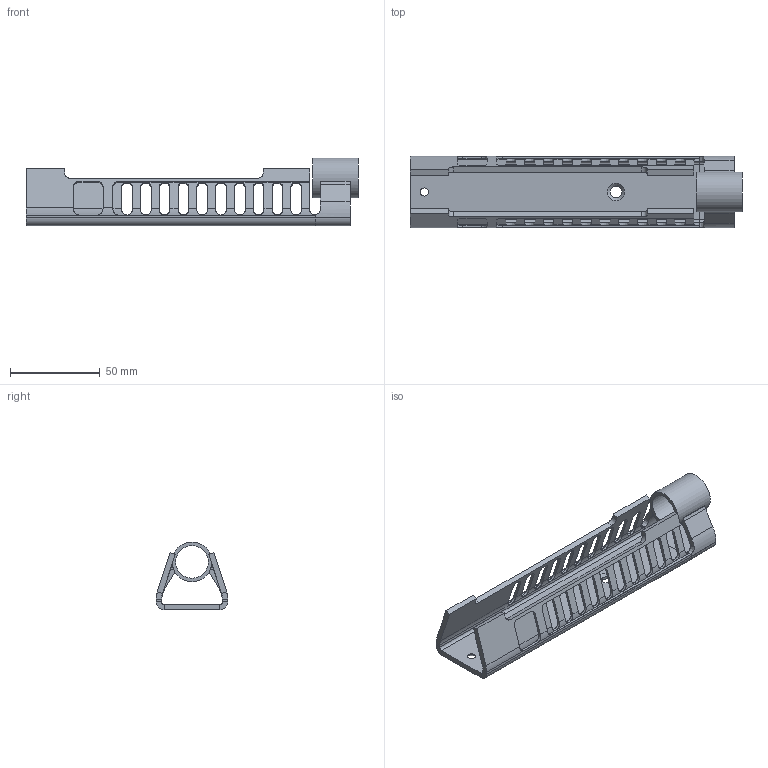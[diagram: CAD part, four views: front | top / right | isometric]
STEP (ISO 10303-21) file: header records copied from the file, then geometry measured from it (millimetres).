
FILE_DESCRIPTION(/* description */ (''),/* implementation_level */ '2;1');
FILE_NAME(/* name */ 'C:/Users/HIRSCH/Desktop/Vent.step',/* time_stamp */ '2021-12-24T12:19:58+01:00',/* author */ (''),/* organization */ (''),/* preprocessor_version */ 'ST-DEVELOPER v18.1',/* originating_system */ 'Autodesk Translation Framework v10.10.0.1391',/* authorisation */ '');
FILE_SCHEMA (('AUTOMOTIVE_DESIGN { 1 0 10303 214 3 1 1 }'));
Length unit declared in the file: millimetre
Products named in the file (1): Vent4
Bounding box: 185.4 x 40 x 37.9 mm (x, y, z)
Volume: 39697.7 mm3; surface area: 34715.7 mm2
Topology: 2 solids, 2 shells, 314 faces, 842 edges, 492 vertices
Faces by surface type: plane 206, cylinder 76, bspline 30, cone 2
Full cylindrical faces by diameter (mm): 4.5 x1, 6.6 x1, 18.2 x1, 22.2 x1
Entity records: 11000 total; most frequent: CARTESIAN_POINT 3211, ORIENTED_EDGE 1684, DIRECTION 1570, EDGE_CURVE 842, LINE 524, VECTOR 524, AXIS2_PLACEMENT_3D 523, VERTEX_POINT 492
